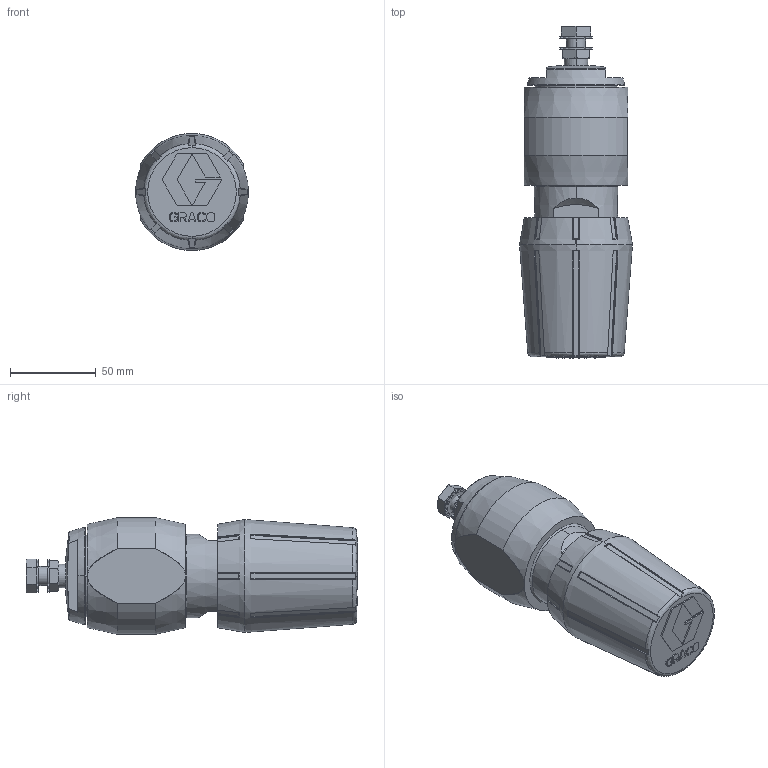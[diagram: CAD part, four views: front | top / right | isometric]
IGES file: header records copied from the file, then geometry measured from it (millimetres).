
Start section:  PTC IGES file: 206661-en-zad.igs
Global section: file name: 206661-en-zad.igs; native system: Creo Parametric by PTC Inc.; preprocessor: 2021072; author: qtmwp1; organization: Unknown; date: 20231107.142827; units: inch
Bounding box: 65.88 x 193.38 x 68.04 mm (x, y, z)
Surface area: 54943.5 mm2 (no closed solid volume)
Topology: 0 solids, 0 shells, 330 faces, 1846 edges, 1846 vertices
Faces by surface type: bspline 188, revolution 142
